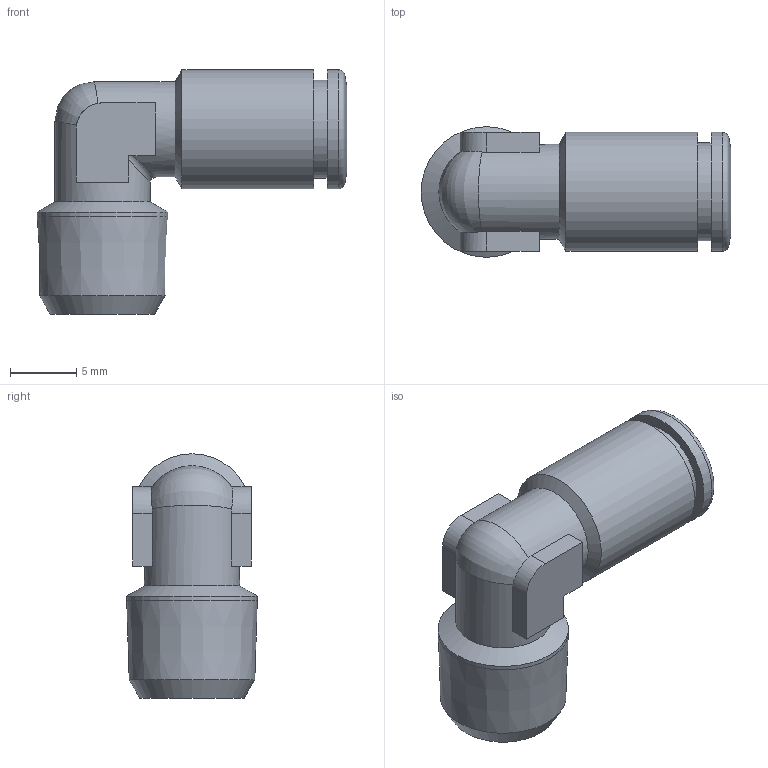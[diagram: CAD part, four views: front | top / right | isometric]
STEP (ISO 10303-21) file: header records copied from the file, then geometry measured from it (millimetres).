
FILE_DESCRIPTION(/* description */ (''),/* implementation_level */ '2;1');
FILE_NAME(/* name */ '201901-ES_STX019_4_R18_08.06.16',/* time_stamp */ '2016-06-08T11:03:05+02:00',/* author */ (''),/* organization */ (''),/* preprocessor_version */ 'ST-DEVELOPER v14',/* originating_system */ 'HiCAD 2013 1802.4 Build 509',/* authorisation */ '');
FILE_SCHEMA (('AUTOMOTIVE_DESIGN { 1 0 10303 214 1 1 1 1 }'));
Length unit declared in the file: millimetre
Products named in the file (3): Root; R20190-ES-N; DR4-1_NEU
Assembly tree (2 placements, depth 2):
  Root
    R20190-ES-N
    DR4-1_NEU
Bounding box: 23.44 x 9.88 x 18.5 mm (x, y, z)
Volume: 1256.7 mm3; surface area: 1841.2 mm2
Topology: 2 solids, 2 shells, 53 faces, 126 edges, 79 vertices
Faces by surface type: plane 20, cylinder 15, cone 15, bspline 2, torus 1
Full cylindrical faces by diameter (mm): 3 x1, 4.1 x2, 5 x1, 6.4 x1, 7.2 x2, 7.3 x1, 7.4 x1, 7.6 x1, 9 x2, 9.884 x1
Entity records: 3571 total; most frequent: CARTESIAN_POINT 1506, DIRECTION 222, PRESENTATION_STYLE_ASSIGNMENT 192, OVER_RIDING_STYLED_ITEM 190, COLOUR_RGB 184, DRAUGHTING_PRE_DEFINED_CURVE_FONT 182, CURVE_STYLE 182, ORIENTED_EDGE 182
